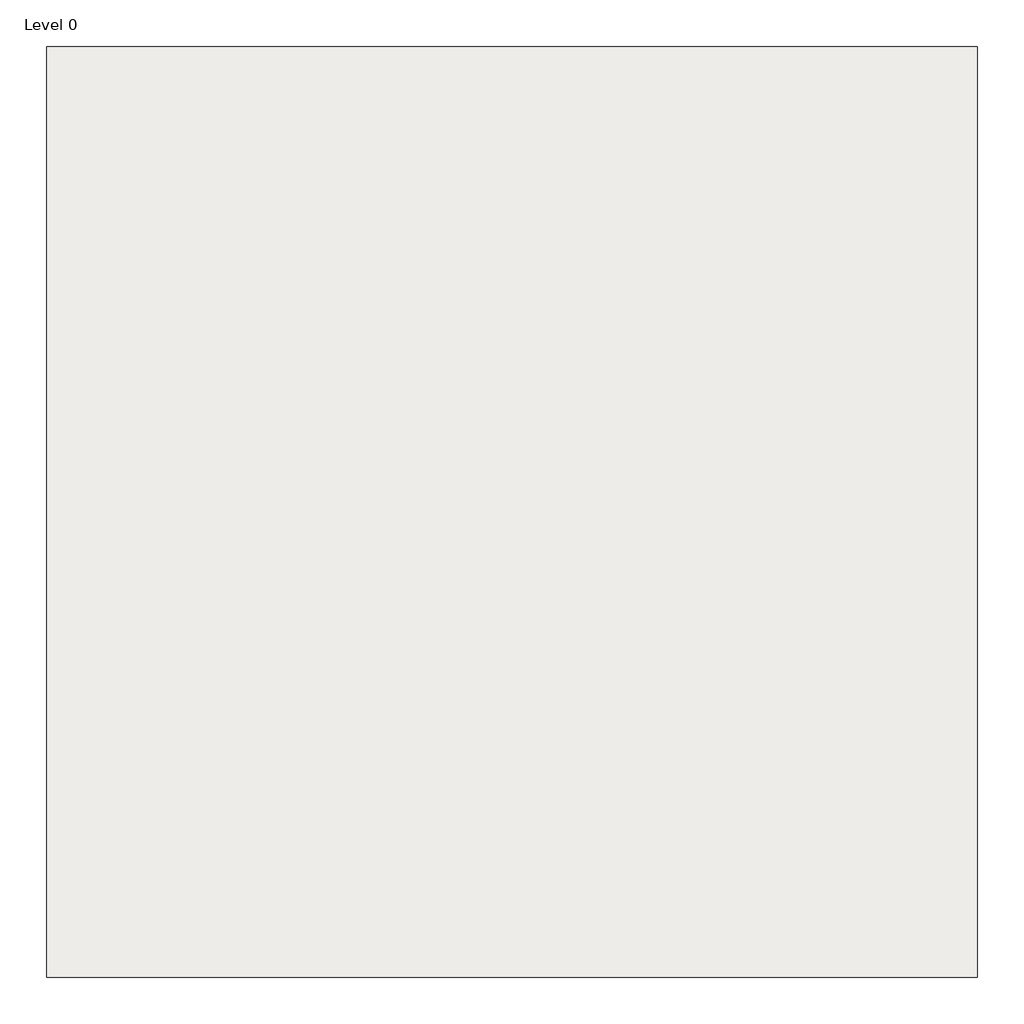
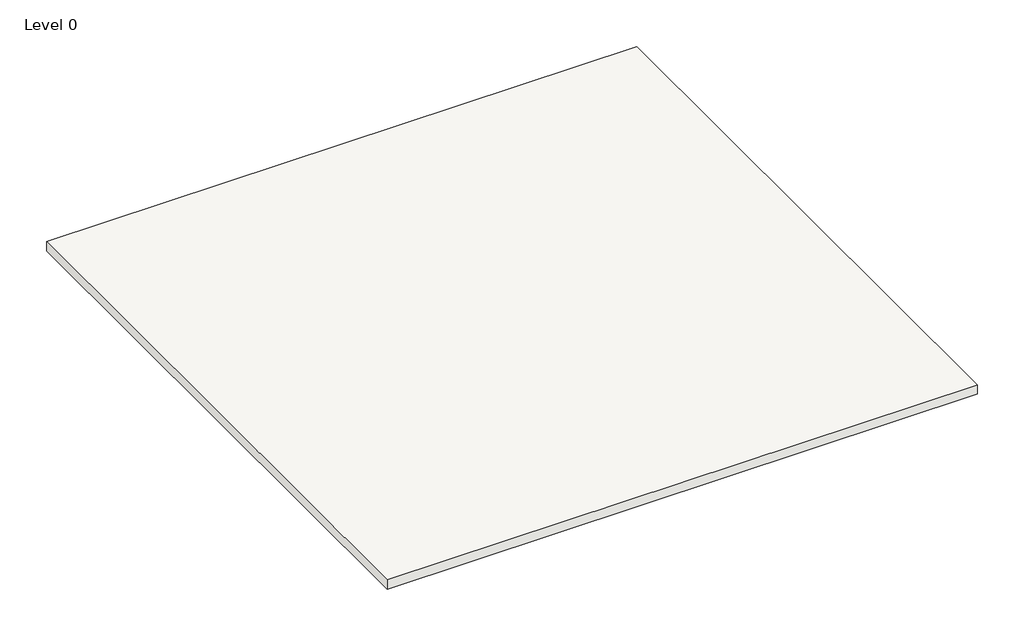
# One storey: 1 slab.
"""IFC4 building model written with IfcOpenShell, lengths in millimetres."""

from ifc_helpers import new_model, si_unit, origin, origin_with_axes, place, context, project, spatial, polyline, outline, extrude, element, save

model = new_model("IFC4")

# Units and contexts
model_context = context("Model", 3, world=origin())
ifc_project = project(units=[si_unit("LENGTHUNIT", "METRE", prefix="MILLI")], contexts=[model_context])

# Site, building, storey
site = spatial("IfcSite", under=ifc_project)
building = spatial("IfcBuilding", under=site)
storey = spatial("IfcBuildingStorey", under=building, Name="Level 0", Elevation=0.0)

# Slab
placement = place(None, origin())
element("IfcSlab", 1, ObjectType="NBS_IKOPLC_SingleLayerSheetWarmRoofCoveringSystems_IKOArmourplanMechanicallyFastenedPPVCSinglePlyWarmRoofSystem_20-25Year", at=placement, inside=storey, context=model_context, shape_type="SweptSolid", body=[
    extrude(outline(polyline([(0.0, -2500.0), (0.0, 0.0), (2500.0, 0.0), (2500.0, -2500.0), (0.0, -2500.0)])), origin_with_axes(), (0.0, 0.0, 1.0), 42.0),
])

save(model, "model.ifc")
